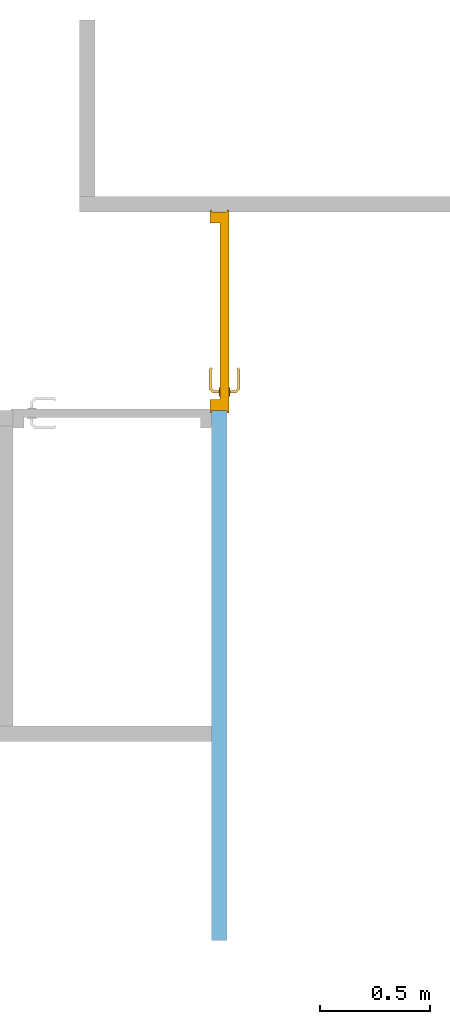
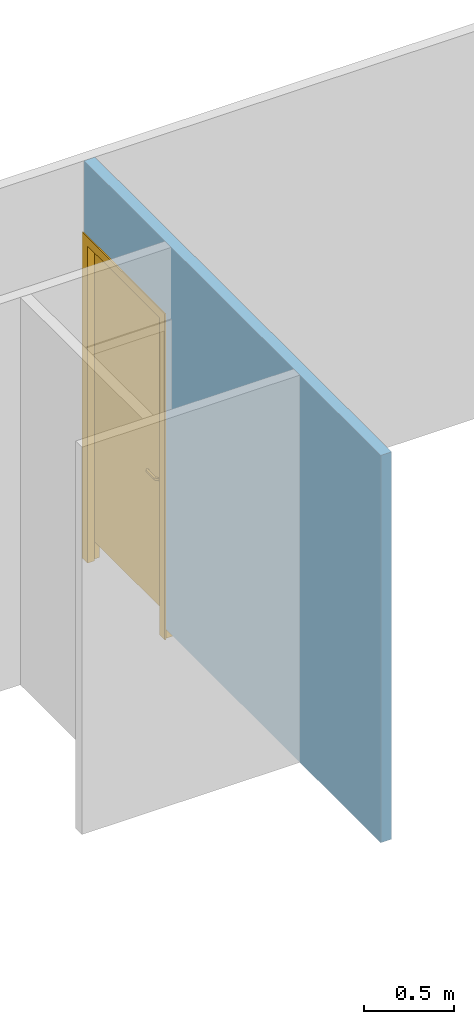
"""IFC2X3 building model written with IfcOpenShell, lengths in metres."""

from ifc_helpers import new_model, entity, si_unit, converted_unit, derived_unit, direction, frame, frame_2d, origin, place, context, subcontext, project, spatial, rectangle, extrude, faceted_brep, source, transform, mapped, material, material_list, layer, layer_set, layer_usage, type_object, type_shapes, element, fill, save


model = new_model("IFC2X3")

# Units and contexts
model_context = context("Model", 3, precision=1e-05, world=origin(), true_north=direction((6.123031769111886e-17, 1.0)))
body_context = subcontext(model_context, "Body", "Model", "MODEL_VIEW")
ifc_project = project(units=[si_unit("LENGTHUNIT", "METRE"), si_unit("AREAUNIT", "SQUARE_METRE"), si_unit("VOLUMEUNIT", "CUBIC_METRE"), converted_unit("PLANEANGLEUNIT", "DEGREE", entity("IfcRatioMeasure", 0.017453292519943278), si_unit("PLANEANGLEUNIT", "RADIAN"), dimensions=[0, 0, 0, 0, 0, 0, 0]), si_unit("MASSUNIT", "GRAM", prefix="KILO"), derived_unit("MASSDENSITYUNIT", [(si_unit("MASSUNIT", "GRAM", prefix="KILO"), 1), (si_unit("LENGTHUNIT", "METRE"), -3)]), derived_unit("IONCONCENTRATIONUNIT", [(si_unit("MASSUNIT", "GRAM", prefix="KILO"), 1), (si_unit("LENGTHUNIT", "METRE"), -3)]), derived_unit("MOMENTOFINERTIAUNIT", [(si_unit("LENGTHUNIT", "METRE"), 4)]), si_unit("TIMEUNIT", "SECOND"), si_unit("FREQUENCYUNIT", "HERTZ"), si_unit("THERMODYNAMICTEMPERATUREUNIT", "DEGREE_CELSIUS"), derived_unit("THERMALTRANSMITTANCEUNIT", [(si_unit("MASSUNIT", "GRAM", prefix="KILO"), 1), (si_unit("THERMODYNAMICTEMPERATUREUNIT", "KELVIN"), -1), (si_unit("TIMEUNIT", "SECOND"), -3)]), derived_unit("THERMALCONDUCTANCEUNIT", [(si_unit("MASSUNIT", "GRAM", prefix="KILO"), 1), (si_unit("THERMODYNAMICTEMPERATUREUNIT", "KELVIN"), -1), (si_unit("TIMEUNIT", "SECOND"), -3), (si_unit("LENGTHUNIT", "METRE"), 1)]), derived_unit("VOLUMETRICFLOWRATEUNIT", [(si_unit("LENGTHUNIT", "METRE"), 3), (si_unit("TIMEUNIT", "SECOND"), -1)]), derived_unit("MASSFLOWRATEUNIT", [(si_unit("MASSUNIT", "GRAM", prefix="KILO"), 1), (si_unit("TIMEUNIT", "SECOND"), -1)]), derived_unit("ROTATIONALFREQUENCYUNIT", [(si_unit("TIMEUNIT", "SECOND"), -1)]), si_unit("ELECTRICCURRENTUNIT", "AMPERE"), si_unit("ELECTRICVOLTAGEUNIT", "VOLT"), si_unit("POWERUNIT", "WATT"), si_unit("FORCEUNIT", "NEWTON", prefix="KILO"), si_unit("ILLUMINANCEUNIT", "LUX"), si_unit("LUMINOUSFLUXUNIT", "LUMEN"), si_unit("LUMINOUSINTENSITYUNIT", "CANDELA"), derived_unit("USERDEFINED", [(si_unit("MASSUNIT", "GRAM", prefix="KILO"), -1), (si_unit("LENGTHUNIT", "METRE"), -2), (si_unit("TIMEUNIT", "SECOND"), 3), (si_unit("LUMINOUSFLUXUNIT", "LUMEN"), 1)]), derived_unit("USERDEFINED", [(si_unit("MASSUNIT", "GRAM", prefix="KILO"), 1), (si_unit("TIMEUNIT", "SECOND"), -3), (si_unit("LENGTHUNIT", "METRE"), 3), (si_unit("ELECTRICCURRENTUNIT", "AMPERE"), -2)]), derived_unit("SOUNDPOWERUNIT", [(si_unit("MASSUNIT", "GRAM", prefix="KILO"), 1), (si_unit("TIMEUNIT", "SECOND"), -3), (si_unit("LENGTHUNIT", "METRE"), 2)]), derived_unit("SOUNDPRESSUREUNIT", [(si_unit("MASSUNIT", "GRAM", prefix="KILO"), 1), (si_unit("LENGTHUNIT", "METRE"), -1), (si_unit("TIMEUNIT", "SECOND"), -2)]), derived_unit("LINEARVELOCITYUNIT", [(si_unit("LENGTHUNIT", "METRE"), 1), (si_unit("TIMEUNIT", "SECOND"), -1)]), si_unit("PRESSUREUNIT", "PASCAL"), derived_unit("USERDEFINED", [(si_unit("MASSUNIT", "GRAM", prefix="KILO"), 1), (si_unit("LENGTHUNIT", "METRE"), -2), (si_unit("TIMEUNIT", "SECOND"), -2)]), derived_unit("LINEARFORCEUNIT", [(si_unit("MASSUNIT", "GRAM", prefix="KILO"), 1), (si_unit("TIMEUNIT", "SECOND"), -2)]), derived_unit("PLANARFORCEUNIT", [(si_unit("MASSUNIT", "GRAM", prefix="KILO"), 1), (si_unit("LENGTHUNIT", "METRE"), -1), (si_unit("TIMEUNIT", "SECOND"), -2)]), derived_unit("SPECIFICHEATCAPACITYUNIT", [(si_unit("THERMODYNAMICTEMPERATUREUNIT", "KELVIN"), -1), (si_unit("LENGTHUNIT", "METRE"), 2), (si_unit("TIMEUNIT", "SECOND"), -2)]), derived_unit("HEATINGVALUEUNIT", [(si_unit("LENGTHUNIT", "METRE"), 2), (si_unit("TIMEUNIT", "SECOND"), -2)]), derived_unit("VAPORPERMEABILITYUNIT", [(si_unit("LENGTHUNIT", "METRE"), -1), (si_unit("TIMEUNIT", "SECOND"), 1)]), derived_unit("DYNAMICVISCOSITYUNIT", [(si_unit("MASSUNIT", "GRAM", prefix="KILO"), 1), (si_unit("TIMEUNIT", "SECOND"), -1), (si_unit("LENGTHUNIT", "METRE"), -1)]), derived_unit("THERMALEXPANSIONCOEFFICIENTUNIT", [(si_unit("THERMODYNAMICTEMPERATUREUNIT", "KELVIN"), -1)]), derived_unit("MODULUSOFELASTICITYUNIT", [(si_unit("MASSUNIT", "GRAM", prefix="KILO"), 1), (si_unit("LENGTHUNIT", "METRE"), -1), (si_unit("TIMEUNIT", "SECOND"), -2)]), derived_unit("ISOTHERMALMOISTURECAPACITYUNIT", [(si_unit("LENGTHUNIT", "METRE"), 3), (si_unit("MASSUNIT", "GRAM", prefix="KILO"), -1)]), derived_unit("MOISTUREDIFFUSIVITYUNIT", [(si_unit("TIMEUNIT", "SECOND"), -1), (si_unit("LENGTHUNIT", "METRE"), 2)])], contexts=[model_context])

# Site, building, storey
site_placement = place(None, frame((1.2553507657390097, -0.6266432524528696, -1.0397761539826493), z_axis=(0.0, 0.0, 1.0), x_axis=(-1.0, 0.0, 0.0)))
site = spatial("IfcSite", under=ifc_project, at=site_placement, Name="Default", CompositionType="ELEMENT")
building_placement = place(site_placement, origin())
building = spatial("IfcBuilding", under=site, at=building_placement, Name="MAISON D'HABITATION", CompositionType="ELEMENT")
storey_1_placement = place(building_placement, frame((0.0, 0.0, 0.9097761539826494)))
storey_1 = spatial("IfcBuildingStorey", under=building, at=storey_1_placement, Name="Niveau Dalle ↑", CompositionType="ELEMENT", Elevation=0.9097761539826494)

# Wall, openings
ifc_material_1 = material(Name="Peinture")
ifc_layer_1 = layer(ifc_material_1, 0.007)
ifc_material_2 = material(Name="Plaque de mur de gypse")
ifc_layer_2 = layer(ifc_material_2, 0.013)
ifc_material_3 = material(Name="Isolation")
ifc_layer_3 = layer(ifc_material_3, 0.03)
ifc_layer_4 = layer(ifc_material_2, 0.013)
ifc_layer_5 = layer(ifc_material_1, 0.007)
ifc_layer_set = layer_set([ifc_layer_1, ifc_layer_2, ifc_layer_3, ifc_layer_4, ifc_layer_5], Name="Mur de base:mur interieur 7 cm")
ifc_layer_usage = layer_usage(ifc_layer_set, "AXIS2", "NEGATIVE", 0.034999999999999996)
wall_type = type_object("IfcWallType", Name="Mur de base:mur interieur 7 cm", PredefinedType="STANDARD", material=ifc_layer_set)
wall_placement = place(storey_1_placement, frame((-1.504866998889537, -0.30381695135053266, 0.0), z_axis=(0.0, 0.0, 1.0), x_axis=(0.0, 1.0, 0.0)))
wall = element("IfcWallStandardCase", 1, at=wall_placement, inside=storey_1, type_object=wall_type, material=ifc_layer_usage, Name="Mur de base:mur interieur 7 cm", ObjectType="Mur de base:mur interieur 7 cm", context=body_context, shape_type="SweptSolid", body=[
    extrude(rectangle(XDim=3.3000000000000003, YDim=0.06999999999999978, at=frame_2d((1.6500000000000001, 3.469446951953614e-18), x_axis=(-1.0, 0.0))), origin(), (0.0, 0.0, 1.0), 2.6299999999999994),
])
opening_1_placement = place(wall_placement, origin())
element("IfcOpeningElement", 2, at=opening_1_placement, cuts=wall, Name="Mur de base:mur interieur 7 cm", ObjectType="Opening", context=body_context, shape_type="SweptSolid", body=[
    extrude(rectangle(XDim=2.224999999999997, YDim=0.06999999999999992, at=frame_2d((-6.938893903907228e-17, 3.3306690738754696e-16), x_axis=(0.0, 1.0))), frame((0.9350000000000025, -0.9350000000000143, 1.0224999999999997), z_axis=(0.0, 1.0, 0.0), x_axis=(-1.0, 0.0, 0.0)), (0.0, 0.0, 1.0), 0.8999999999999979),
])
opening_2_placement = place(wall_placement, frame((0.0, -0.034999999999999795, -0.08999999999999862)))
opening_2 = element("IfcOpeningElement", 3, at=opening_2_placement, cuts=wall, Name="porte intérieur Simple reservation 13 cm:80 x 204:1", ObjectType="Opening", context=body_context, shape_type="SweptSolid", body=[
    extrude(rectangle(XDim=2.224999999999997, YDim=0.8999999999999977, at=frame_2d((1.1124999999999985, 0.4499999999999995), x_axis=(1.0, 0.0))), frame((0.0, 0.0, 0.0), z_axis=(0.0, 1.0, 0.0), x_axis=(0.0, 0.0, 1.0)), (0.0, 0.0, 1.0), 0.06999999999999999),
])

# Storey
storey_2_placement = place(building_placement, frame((0.0, 0.0, 1.0397761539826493)))
storey_2 = spatial("IfcBuildingStorey", under=building, at=storey_2_placement, Name="site", CompositionType="ELEMENT", Elevation=1.0397761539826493)

# Door
ifc_material_4 = material(Name="Poignée Porte")
ifc_material_5 = material(Name="Dormants Portes")
ifc_material_6 = material(Name="Panneaux Portes")
ifc_material_list = material_list([ifc_material_4, ifc_material_5, ifc_material_6])
door_style = type_object("IfcDoorStyle", Name="porte intérieur Simple reservation 13 cm:80 x 204", ConstructionType="NOTDEFINED", OperationType="NOTDEFINED", ParameterTakesPrecedence=False, Sizeable=False, material=ifc_material_list)
shared_shape = source(origin(), body_context, "Body", "Brep", [
    faceted_brep([(0.08297470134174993, 0.03700000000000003, 1.0577804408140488), (0.07899999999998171, 0.03700000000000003, 1.0569999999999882), (0.07899999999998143, 0.03700000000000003, 1.0429999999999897), (0.08297470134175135, 0.03700000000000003, 1.0422195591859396), (0.08702529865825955, 0.03700000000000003, 1.0422195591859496), (0.09100000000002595, 0.03700000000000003, 1.0430000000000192), (0.09100000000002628, 0.03700000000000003, 1.0569999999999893), (0.08702529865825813, 0.03700000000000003, 1.0577804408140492), (0.09100000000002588, 0.059485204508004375, 1.0430000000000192), (0.09100000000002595, 0.059485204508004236, 1.0569999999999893), (0.08702529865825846, 0.061131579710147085, 1.0577804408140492), (0.10083890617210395, 0.0749451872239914, 1.0577804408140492), (0.09916109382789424, 0.07899578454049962, 1.0577804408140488), (0.08297470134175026, 0.06280939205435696, 1.0577804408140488), (0.1906847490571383, 0.06846731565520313, 1.0577804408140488), (0.1935489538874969, 0.07133152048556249, 1.0577804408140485), (0.18588468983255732, 0.07899578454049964, 1.0577804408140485), (0.18420687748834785, 0.07494518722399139, 1.0577804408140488), (0.0789999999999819, 0.06445576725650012, 1.0569999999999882), (0.07899999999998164, 0.06445576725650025, 1.0429999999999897), (0.08297470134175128, 0.06280939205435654, 1.0422195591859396), (0.09916109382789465, 0.0789957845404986, 1.0422195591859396), (0.10083890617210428, 0.07494518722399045, 1.0422195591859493), (0.08702529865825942, 0.06113157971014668, 1.0422195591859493), (0.19354895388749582, 0.07133152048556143, 1.0422195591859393), (0.19068474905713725, 0.06846731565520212, 1.0422195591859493), (0.18420687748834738, 0.07494518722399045, 1.042219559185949), (0.18588468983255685, 0.07899578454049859, 1.0422195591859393), (0.1024852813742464, 0.07097048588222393, 1.0430000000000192), (0.10248528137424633, 0.07097048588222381, 1.0569999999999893), (0.0975147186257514, 0.08297048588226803, 1.0569999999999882), (0.09751471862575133, 0.08297048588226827, 1.0429999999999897), (0.14252287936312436, 0.07097048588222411, 1.0430000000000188), (0.1825605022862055, 0.07097048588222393, 1.0430000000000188), (0.1825605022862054, 0.07097048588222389, 1.056999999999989), (0.14252289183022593, 0.07097048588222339, 1.056999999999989), (0.14252289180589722, 0.07712492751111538, 1.0578781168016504), (0.18753106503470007, 0.08297048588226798, 1.0569999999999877), (0.1476005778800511, 0.08297048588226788, 1.0569999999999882), (0.18753106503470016, 0.0829704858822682, 1.0429999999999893), (0.13744520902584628, 0.08297048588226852, 1.0429999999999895), (0.14252289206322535, 0.07712492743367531, 1.0421218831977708), (0.18787421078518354, 0.06565677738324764, 1.0430000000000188), (0.19635949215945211, 0.07414205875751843, 1.0429999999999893), (0.19635949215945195, 0.07414205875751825, 1.0569999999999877), (0.18787421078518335, 0.06565677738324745, 1.056999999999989)], [[[0, 1, 2, 3, 4, 5, 6, 7]], [[6, 5, 8, 9]], [[9, 10, 7, 6]], [[10, 11, 12, 13, 0, 7]], [[14, 15, 16, 17]], [[13, 18, 1, 0]], [[2, 1, 18, 19]], [[19, 20, 3, 2]], [[20, 21, 22, 23, 4, 3]], [[24, 25, 26, 27]], [[23, 8, 5, 4]], [[9, 8, 28, 29]], [[29, 11, 10, 9]], [[12, 30, 18, 13]], [[19, 18, 30, 31]], [[31, 21, 20, 19]], [[22, 28, 8, 23]], [[28, 32, 33, 34, 35, 29]], [[11, 35, 36]], [[16, 37, 38]], [[30, 12, 38]], [[38, 12, 36]], [[36, 35, 17]], [[17, 16, 36]], [[35, 11, 29]], [[34, 17, 35]], [[11, 36, 12]], [[38, 36, 16]], [[31, 30, 38, 37, 39, 40]], [[40, 41, 21]], [[41, 40, 27]], [[21, 31, 40]], [[39, 27, 40]], [[41, 32, 22]], [[22, 21, 41]], [[26, 32, 41]], [[28, 22, 32]], [[32, 26, 33]], [[26, 41, 27]], [[42, 25, 24, 43, 44, 15, 14, 45]], [[34, 33, 42, 45]], [[45, 14, 17, 34]], [[15, 44, 37, 16]], [[39, 37, 44, 43]], [[43, 24, 27, 39]], [[25, 42, 33, 26]]]),
    faceted_brep([(0.08297470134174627, -0.012999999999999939, 1.0577804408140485), (0.08702529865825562, -0.012999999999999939, 1.057780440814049), (0.09100000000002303, -0.012999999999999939, 1.0569999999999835), (0.09100000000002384, -0.012999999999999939, 1.0430000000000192), (0.08702529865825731, -0.012999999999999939, 1.0422195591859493), (0.08297470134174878, -0.012999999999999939, 1.0422195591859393), (0.07899999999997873, -0.012999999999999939, 1.0429999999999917), (0.07899999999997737, -0.012999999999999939, 1.0569999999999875), (0.0789999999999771, -0.04065095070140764, 1.0569999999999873), (0.08297470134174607, -0.03900457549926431, 1.0577804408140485), (0.09902358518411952, -0.05505345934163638, 1.0577804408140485), (0.10070139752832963, -0.05100286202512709, 1.057780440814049), (0.08702529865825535, -0.037326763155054, 1.057780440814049), (0.19352181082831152, -0.04738919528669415, 1.0577804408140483), (0.1906576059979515, -0.04452499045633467, 1.0577804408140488), (0.18417973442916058, -0.05100286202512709, 1.0577804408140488), (0.18585754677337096, -0.05505345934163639, 1.0577804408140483), (0.09100000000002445, -0.035680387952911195, 1.0569999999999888), (0.09100000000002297, -0.03568038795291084, 1.0430000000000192), (0.08702529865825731, -0.03732676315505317, 1.0422195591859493), (0.10070139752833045, -0.051002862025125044, 1.0422195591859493), (0.0990235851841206, -0.05505345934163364, 1.0422195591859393), (0.08297470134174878, -0.0390045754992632, 1.0422195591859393), (0.19065760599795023, -0.0445249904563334, 1.042219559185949), (0.19352181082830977, -0.047389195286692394, 1.0422195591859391), (0.18585754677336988, -0.05505345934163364, 1.0422195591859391), (0.18417973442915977, -0.051002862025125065, 1.042219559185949), (0.07899999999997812, -0.040650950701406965, 1.0429999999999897), (0.09737720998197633, -0.059028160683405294, 1.0569999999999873), (0.10234777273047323, -0.04702816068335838, 1.0569999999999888), (0.10234777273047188, -0.047028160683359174, 1.0430000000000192), (0.09737720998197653, -0.05902816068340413, 1.0429999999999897), (0.1373076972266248, -0.059028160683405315, 1.0569999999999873), (0.14244056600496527, -0.05318280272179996, 1.0578781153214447), (0.18750392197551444, -0.05902816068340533, 1.056999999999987), (0.14244056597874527, -0.04702816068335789, 1.0569999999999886), (0.18253335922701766, -0.04702816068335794, 1.0569999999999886), (0.18253335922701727, -0.047028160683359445, 1.043000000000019), (0.14244056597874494, -0.04702816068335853, 1.0430000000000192), (0.1424405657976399, -0.05318280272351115, 1.0421218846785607), (0.18750392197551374, -0.059028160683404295, 1.0429999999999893), (0.1475734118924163, -0.05902816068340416, 1.0429999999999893), (0.18784706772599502, -0.04171445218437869, 1.0569999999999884), (0.19633234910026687, -0.05019973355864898, 1.056999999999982), (0.19633234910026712, -0.05019973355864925, 1.0429999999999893), (0.18784706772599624, -0.04171445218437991, 1.043000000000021)], [[[0, 1, 2, 3, 4, 5, 6, 7]], [[8, 9, 0, 7]], [[9, 10, 11, 12, 1, 0]], [[13, 14, 15, 16]], [[12, 17, 2, 1]], [[3, 2, 17, 18]], [[18, 19, 4, 3]], [[19, 20, 21, 22, 5, 4]], [[23, 24, 25, 26]], [[22, 27, 6, 5]], [[7, 6, 27, 8]], [[28, 10, 9, 8]], [[11, 29, 17, 12]], [[18, 17, 29, 30]], [[30, 20, 19, 18]], [[21, 31, 27, 22]], [[8, 27, 31, 28]], [[32, 33, 10]], [[33, 32, 16]], [[10, 28, 32]], [[34, 16, 32]], [[33, 35, 11]], [[11, 10, 33]], [[15, 35, 33]], [[29, 11, 35]], [[35, 15, 36]], [[15, 33, 16]], [[30, 29, 35, 36, 37, 38]], [[20, 38, 39]], [[25, 40, 41]], [[31, 21, 41]], [[41, 21, 39]], [[39, 38, 26]], [[26, 25, 39]], [[38, 20, 30]], [[37, 26, 38]], [[20, 39, 21]], [[41, 39, 25]], [[28, 31, 41, 40, 34, 32]], [[42, 14, 13, 43, 44, 24, 23, 45]], [[43, 13, 16, 34]], [[14, 42, 36, 15]], [[37, 36, 42, 45]], [[45, 23, 26, 37]], [[24, 44, 40, 25]], [[34, 40, 44, 43]]]),
    faceted_brep([(0.09535276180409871, 0.03199999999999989, 0.9160039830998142), (0.10499999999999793, 0.031999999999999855, 0.9199999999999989), (0.10499999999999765, 0.031999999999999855, 1.1299999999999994), (0.09535276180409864, 0.03199999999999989, 1.1339960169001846), (0.08499999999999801, 0.031999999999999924, 1.1353589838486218), (0.07464723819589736, 0.03199999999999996, 1.1339960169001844), (0.06499999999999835, 0.03199999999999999, 1.1299999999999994), (0.06499999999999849, 0.03199999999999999, 0.9200000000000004), (0.07464723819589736, 0.03199999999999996, 0.9160039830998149), (0.08499999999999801, 0.031999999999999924, 0.9146410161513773), (0.09535276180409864, 0.036999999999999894, 1.1339960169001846), (0.10499999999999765, 0.03699999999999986, 1.1299999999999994), (0.10499999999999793, 0.03699999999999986, 0.9199999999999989), (0.09535276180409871, 0.036999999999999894, 0.9160039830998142), (0.08499999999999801, 0.03699999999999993, 0.9146410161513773), (0.07464723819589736, 0.03699999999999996, 0.9160039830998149), (0.06499999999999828, 0.03699999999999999, 0.9200000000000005), (0.06499999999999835, 0.03699999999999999, 1.1299999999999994), (0.07464723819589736, 0.03699999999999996, 1.1339960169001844), (0.08499999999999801, 0.03699999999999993, 1.1353589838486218)], [[[0, 1, 2, 3, 4, 5, 6, 7, 8, 9]], [[10, 11, 12, 13, 14, 15, 16, 17, 18, 19]], [[11, 10, 3, 2]], [[3, 10, 19, 4]], [[19, 18, 5, 4]], [[18, 17, 6, 5]], [[7, 6, 17, 16]], [[16, 15, 8, 7]], [[8, 15, 14, 9]], [[14, 13, 0, 9]], [[13, 12, 1, 0]], [[2, 1, 12, 11]]]),
    faceted_brep([(0.09535276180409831, -0.013000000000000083, 0.916003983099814), (0.10499999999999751, -0.013000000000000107, 0.9199999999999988), (0.10499999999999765, -0.013000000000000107, 1.1299999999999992), (0.09535276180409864, -0.013000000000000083, 1.1339960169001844), (0.08499999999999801, -0.013000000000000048, 1.1353589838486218), (0.07464723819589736, -0.013000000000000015, 1.1339960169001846), (0.06499999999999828, -0.01299999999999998, 1.1299999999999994), (0.06499999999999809, -0.01299999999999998, 0.9200000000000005), (0.07464723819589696, -0.013000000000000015, 0.916003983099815), (0.08499999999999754, -0.013000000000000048, 0.9146410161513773), (0.09535276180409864, -0.008000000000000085, 1.1339960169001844), (0.10499999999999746, -0.00800000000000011, 1.1299999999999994), (0.10499999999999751, -0.00800000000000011, 0.9199999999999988), (0.09535276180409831, -0.008000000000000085, 0.916003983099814), (0.08499999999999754, -0.00800000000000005, 0.9146410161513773), (0.07464723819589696, -0.008000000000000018, 0.916003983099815), (0.06499999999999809, -0.007999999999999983, 0.9200000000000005), (0.06499999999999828, -0.007999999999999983, 1.1299999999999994), (0.07464723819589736, -0.008000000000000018, 1.1339960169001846), (0.08499999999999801, -0.00800000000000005, 1.1353589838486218)], [[[0, 1, 2, 3, 4, 5, 6, 7, 8, 9]], [[10, 11, 12, 13, 14, 15, 16, 17, 18, 19]], [[16, 15, 8, 7]], [[8, 15, 14, 9]], [[14, 13, 0, 9]], [[13, 12, 1, 0]], [[2, 1, 12, 11]], [[11, 10, 3, 2]], [[3, 10, 19, 4]], [[19, 18, 5, 4]], [[18, 17, 6, 5]], [[7, 6, 17, 16]]]),
    faceted_brep([(0.0, 0.0, 0.01999999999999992), (0.0, 0.06999999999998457, 0.01999999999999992), (-0.010000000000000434, 0.06999999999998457, 0.01999999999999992), (-0.010000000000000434, 0.07799999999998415, 0.01999999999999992), (0.04999999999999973, 0.07799999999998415, 0.01999999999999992), (0.04999999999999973, 0.03200000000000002, 0.01999999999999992), (0.03499999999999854, 0.03200000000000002, 0.01999999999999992), (0.03499999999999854, -0.007999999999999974, 0.01999999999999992), (-0.010000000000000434, -0.007999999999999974, 0.01999999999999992), (-0.010000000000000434, 0.0, 0.01999999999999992), (0.0, 0.0, 2.224999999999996), (0.0, 0.06999999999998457, 2.224999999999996), (0.8999999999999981, 0.06999999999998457, 2.224999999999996), (0.8999999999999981, 0.06999999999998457, 0.01999999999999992), (0.9099999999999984, 0.06999999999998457, 0.01999999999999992), (0.9099999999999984, 0.06999999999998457, 2.2349999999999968), (-0.010000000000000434, 0.06999999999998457, 2.2349999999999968), (-0.010000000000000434, 0.07799999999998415, 2.2349999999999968), (0.9099999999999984, 0.07799999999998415, 2.2349999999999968), (0.9099999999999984, 0.07799999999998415, 0.01999999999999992), (0.8499999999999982, 0.07799999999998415, 0.01999999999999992), (0.8499999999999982, 0.07799999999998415, 2.1749999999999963), (0.04999999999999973, 0.07799999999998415, 2.1749999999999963), (0.04999999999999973, 0.03200000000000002, 2.1749999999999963), (0.8499999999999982, 0.03200000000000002, 2.1749999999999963), (0.8499999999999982, 0.03200000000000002, 0.01999999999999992), (0.8649999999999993, 0.03200000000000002, 0.01999999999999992), (0.8649999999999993, 0.03200000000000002, 2.1899999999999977), (0.03499999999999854, 0.03200000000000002, 2.1899999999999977), (0.03499999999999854, -0.007999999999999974, 2.1899999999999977), (0.8649999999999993, -0.007999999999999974, 2.1899999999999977), (0.8649999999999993, -0.007999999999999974, 0.01999999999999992), (0.9099999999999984, -0.007999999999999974, 0.01999999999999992), (0.9099999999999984, -0.007999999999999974, 2.2349999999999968), (-0.010000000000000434, -0.007999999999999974, 2.2349999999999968), (-0.010000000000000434, 0.0, 2.2349999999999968), (0.9099999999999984, 0.0, 2.2349999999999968), (0.9099999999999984, 0.0, 0.01999999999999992), (0.8999999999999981, 0.0, 0.01999999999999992), (0.8999999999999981, 0.0, 2.224999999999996)], [[[0, 1, 2, 3, 4, 5, 6, 7, 8, 9]], [[1, 0, 10, 11]], [[2, 1, 11, 12, 13, 14, 15, 16]], [[3, 2, 16, 17]], [[4, 3, 17, 18, 19, 20, 21, 22]], [[5, 4, 22, 23]], [[6, 5, 23, 24, 25, 26, 27, 28]], [[7, 6, 28, 29]], [[8, 7, 29, 30, 31, 32, 33, 34]], [[9, 8, 34, 35]], [[0, 9, 35, 36, 37, 38, 39, 10]], [[12, 39, 38, 13]], [[38, 37, 32, 31, 26, 25, 20, 19, 14, 13]], [[18, 15, 14, 19]], [[24, 21, 20, 25]], [[30, 27, 26, 31]], [[36, 33, 32, 37]], [[11, 10, 39, 12]], [[17, 16, 15, 18]], [[23, 22, 21, 24]], [[29, 28, 27, 30]], [[35, 34, 33, 36]]]),
    faceted_brep([(0.8649999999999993, -0.007999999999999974, 2.1899999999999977), (0.03499999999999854, -0.007999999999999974, 2.1899999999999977), (0.03499999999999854, -0.007999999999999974, 0.14999999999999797), (0.8649999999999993, -0.007999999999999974, 0.14999999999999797), (0.8649999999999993, 0.03200000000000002, 2.1899999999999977), (0.8649999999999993, 0.03200000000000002, 0.14999999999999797), (0.03499999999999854, 0.03200000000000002, 0.14999999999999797), (0.03499999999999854, 0.03200000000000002, 2.1899999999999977)], [[[0, 1, 2, 3]], [[4, 5, 6, 7]], [[1, 0, 4, 7]], [[2, 1, 7, 6]], [[3, 2, 6, 5]], [[0, 3, 5, 4]]]),
])
type_shapes(door_style, [shared_shape])
door_placement = place(opening_2_placement, frame((0.8999999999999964, 0.06999999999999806, 0.0), z_axis=(0.0, 0.0, 1.0), x_axis=(-1.0, 0.0, 0.0)))
door = element("IfcDoor", 4, at=door_placement, inside=storey_2, type_object=door_style, material=ifc_material_list, Name="porte intérieur Simple reservation 13 cm:80 x 204", ObjectType="porte intérieur Simple reservation 13 cm:80 x 204", OverallHeight=2.224999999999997, OverallWidth=0.8999999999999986, context=body_context, shape_type="MappedRepresentation", body=[
    mapped(shared_shape, transform((0.0, 0.0, 0.0), scale=1.0)),
])

fill(opening_2, door)

save(model, "model.ifc")
